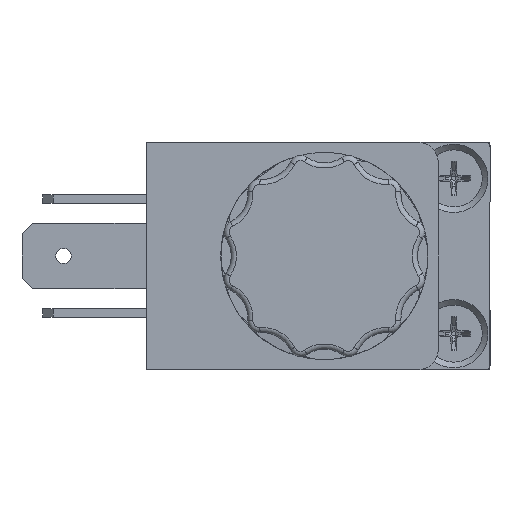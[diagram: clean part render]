
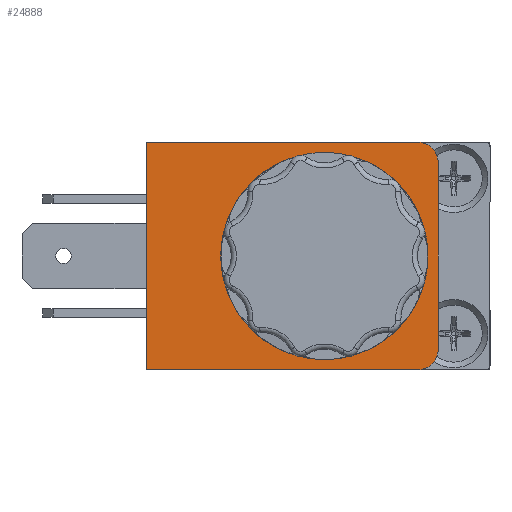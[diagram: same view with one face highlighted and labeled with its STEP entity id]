
A CAD part, left-side view. The second image highlights one B-rep face of the part: STEP entity #24888.
In plain terms, the highlighted planar face has unit normal (-1, 0, 0) as drawn and (0, 0, 1) by its records, which use the part's own axes.
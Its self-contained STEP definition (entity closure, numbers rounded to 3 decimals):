
#10739 = AXIS2_PLACEMENT_3D ( 'NONE', #14538, #14550, #14551 ) ;
#14538 = CARTESIAN_POINT ( 'NONE',  ( 0., -3.1, 30.5 ) ) ;
#14542 = PLANE ( 'NONE',  #10739 ) ;
#14550 = DIRECTION ( 'NONE',  ( 0., 0., 1. ) ) ;
#14551 = DIRECTION ( 'NONE',  ( 0.707, 0.707, 0. ) ) ;
#15195 = FACE_OUTER_BOUND ( 'NONE', #38712, .T. ) ;
#15204 = FACE_BOUND ( 'NONE', #38705, .T. ) ;
#18166 = AXIS2_PLACEMENT_3D ( 'NONE', #25275, #25279, #25280 ) ;
#18409 = AXIS2_PLACEMENT_3D ( 'NONE', #30272, #30278, #30279 ) ;
#18419 = AXIS2_PLACEMENT_3D ( 'NONE', #30341, #30359, #30360 ) ;
#22244 = CIRCLE ( 'NONE', #18166, 8.3 ) ;
#24888 = ADVANCED_FACE ( 'NONE', ( #15195, #15204 ), #14542, .T. ) ;
#25275 = CARTESIAN_POINT ( 'NONE',  ( 0., 0., 30.5 ) ) ;
#25279 = DIRECTION ( 'NONE',  ( 0., 0., -1. ) ) ;
#25280 = DIRECTION ( 'NONE',  ( -1., 0., 0. ) ) ;
#30272 = CARTESIAN_POINT ( 'NONE',  ( 9., 9., 30.5 ) ) ;
#30278 = DIRECTION ( 'NONE',  ( 0., 0., -1. ) ) ;
#30279 = DIRECTION ( 'NONE',  ( 0.707, 0.707, 0. ) ) ;
#30300 = CARTESIAN_POINT ( 'NONE',  ( -9., 11., 30.5 ) ) ;
#30301 = DIRECTION ( 'NONE',  ( 1., 0., 0. ) ) ;
#30319 = CARTESIAN_POINT ( 'NONE',  ( 11., 9., 30.5 ) ) ;
#30320 = DIRECTION ( 'NONE',  ( 0., -1., 0. ) ) ;
#30339 = CARTESIAN_POINT ( 'NONE',  ( 11., -17.2, 30.5 ) ) ;
#30340 = DIRECTION ( 'NONE',  ( -1., 0., 0. ) ) ;
#30341 = CARTESIAN_POINT ( 'NONE',  ( -9., 9., 30.5 ) ) ;
#30359 = DIRECTION ( 'NONE',  ( 0., 0., -1. ) ) ;
#30360 = DIRECTION ( 'NONE',  ( -0.707, 0.707, 0. ) ) ;
#30361 = CARTESIAN_POINT ( 'NONE',  ( -11., -17.2, 30.5 ) ) ;
#30362 = DIRECTION ( 'NONE',  ( 0., 1., 0. ) ) ;
#30748 = CIRCLE ( 'NONE', #18409, 2. ) ;
#30753 = VECTOR ( 'NONE', #30301, 1000. ) ;
#30761 = LINE ( 'NONE', #30300, #30753 ) ;
#30763 = LINE ( 'NONE', #30319, #30766 ) ;
#30766 = VECTOR ( 'NONE', #30320, 1000. ) ;
#30781 = LINE ( 'NONE', #30339, #30784 ) ;
#30784 = VECTOR ( 'NONE', #30340, 1000. ) ;
#30785 = VECTOR ( 'NONE', #30362, 1000. ) ;
#30787 = LINE ( 'NONE', #30361, #30785 ) ;
#30788 = CIRCLE ( 'NONE', #18419, 2. ) ;
#32318 = CARTESIAN_POINT ( 'NONE',  ( 9., 11., 30.5 ) ) ;
#32342 = CARTESIAN_POINT ( 'NONE',  ( -11., -17.2, 30.5 ) ) ;
#32345 = CARTESIAN_POINT ( 'NONE',  ( -11., 9., 30.5 ) ) ;
#32368 = CARTESIAN_POINT ( 'NONE',  ( 11., -17.2, 30.5 ) ) ;
#32373 = CARTESIAN_POINT ( 'NONE',  ( -9., 11., 30.5 ) ) ;
#32374 = CARTESIAN_POINT ( 'NONE',  ( 11., 9., 30.5 ) ) ;
#32598 = VERTEX_POINT ( 'NONE', #32599 ) ;
#32599 = CARTESIAN_POINT ( 'NONE',  ( -8.3, 0., 30.5 ) ) ;
#33332 = EDGE_CURVE ( 'NONE', #32598, #32598, #22244, .T. ) ;
#34355 = EDGE_CURVE ( 'NONE', #44133, #44189, #30748, .T. ) ;
#34364 = EDGE_CURVE ( 'NONE', #44188, #44133, #30761, .T. ) ;
#34372 = EDGE_CURVE ( 'NONE', #44189, #44183, #30763, .T. ) ;
#34380 = EDGE_CURVE ( 'NONE', #44183, #44157, #30781, .T. ) ;
#34382 = EDGE_CURVE ( 'NONE', #44160, #44188, #30788, .T. ) ;
#34383 = EDGE_CURVE ( 'NONE', #44157, #44160, #30787, .T. ) ;
#37191 = ORIENTED_EDGE ( 'NONE', *, *, #34355, .F. ) ;
#37192 = ORIENTED_EDGE ( 'NONE', *, *, #34364, .F. ) ;
#37193 = ORIENTED_EDGE ( 'NONE', *, *, #34382, .F. ) ;
#37194 = ORIENTED_EDGE ( 'NONE', *, *, #34383, .F. ) ;
#37195 = ORIENTED_EDGE ( 'NONE', *, *, #34380, .F. ) ;
#37196 = ORIENTED_EDGE ( 'NONE', *, *, #34372, .F. ) ;
#37197 = ORIENTED_EDGE ( 'NONE', *, *, #33332, .T. ) ;
#38705 = EDGE_LOOP ( 'NONE', ( #37197 ) ) ;
#38712 = EDGE_LOOP ( 'NONE', ( #37191, #37192, #37193, #37194, #37195, #37196 ) ) ;
#44133 = VERTEX_POINT ( 'NONE', #32318 ) ;
#44157 = VERTEX_POINT ( 'NONE', #32342 ) ;
#44160 = VERTEX_POINT ( 'NONE', #32345 ) ;
#44183 = VERTEX_POINT ( 'NONE', #32368 ) ;
#44188 = VERTEX_POINT ( 'NONE', #32373 ) ;
#44189 = VERTEX_POINT ( 'NONE', #32374 ) ;
